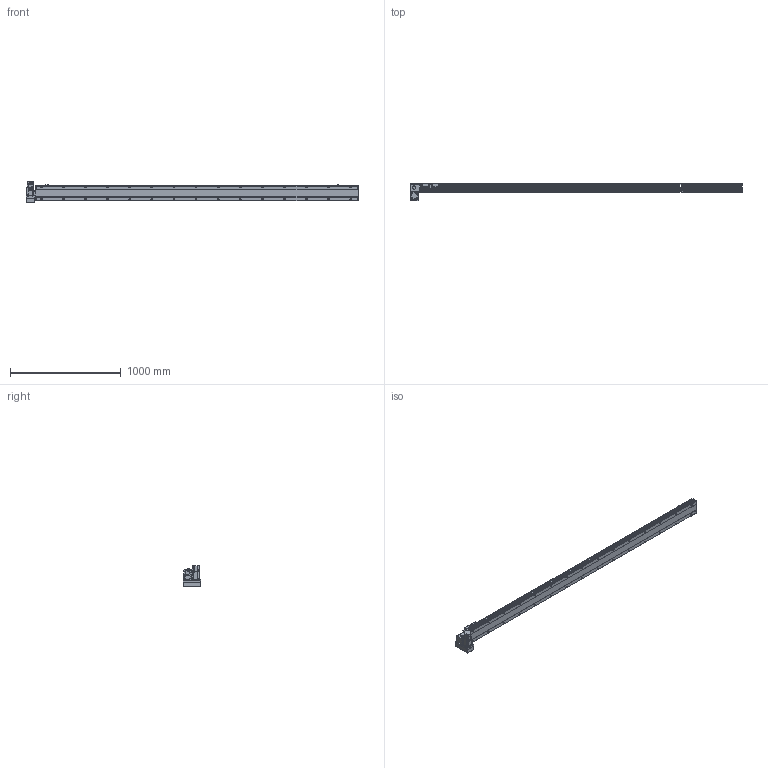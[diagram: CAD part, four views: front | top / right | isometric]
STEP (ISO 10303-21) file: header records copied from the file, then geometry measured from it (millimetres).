
FILE_DESCRIPTION( ( 'STEP AP214' ), '1' );
FILE_NAME( 'x:/temp/worker_27/temp/exporttempdir_6708_584_DcRKl/format_0/PBS140-P40-S2650-LD-T40-C1-N(0).stp', '2022-06-06T05:58:34', ( 'License CC BY-ND 4.0' ), ( 'CADENAS' ), ' ', 'PARTsolutions', ' ' );
FILE_SCHEMA( ( 'AUTOMOTIVE_DESIGN { 1 0 10303 214 1 1 1 1 }' ) );
Length unit declared in the file: millimetre
Products named in the file (7): PBS140-P40-S2650-LD-T40-C1-N(0); _PBS140-S2650()_body; _PBS140T-LD_motors; _T40-p1; _PBS140_sliser; _PBS140_plant; _PBS140_sensor
Assembly tree (8 placements, depth 2):
  PBS140-P40-S2650-LD-T40-C1-N(0)
    _PBS140-S2650()_body
    _PBS140T-LD_motors
    _T40-p1
    _PBS140_sliser
    _PBS140_plant
    _PBS140_sensor  x3
Bounding box: 3004 x 162 x 189.7 mm (x, y, z)
Volume: 13430660.1 mm3; surface area: 2283498.3 mm2
Topology: 8 solids, 8 shells, 1187 faces, 3116 edges, 2035 vertices
Faces by surface type: plane 734, cylinder 387, cone 56, sphere 8, torus 2
Full cylindrical faces by diameter (mm): 3.242 x4, 4 x2, 4.134 x4, 4.4 x8, 4.5 x2, 4.8 x4, 4.917 x38, 5.5 x7, 6 x2, 7 x32, 7.5 x8, 8 x12, 8.5 x4, 10.5 x30, 14 x1, 30 x2, 50 x2
Entity records: 43783 total; most frequent: CARTESIAN_POINT 7427, DIRECTION 5687, ORIENTED_EDGE 5332, EDGE_CURVE 2666, AXIS2_PLACEMENT_3D 2017, VERTEX_POINT 1869, LINE 1653, VECTOR 1653
